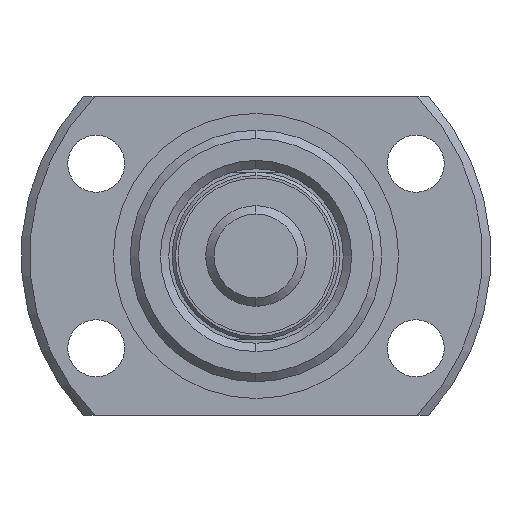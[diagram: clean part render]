
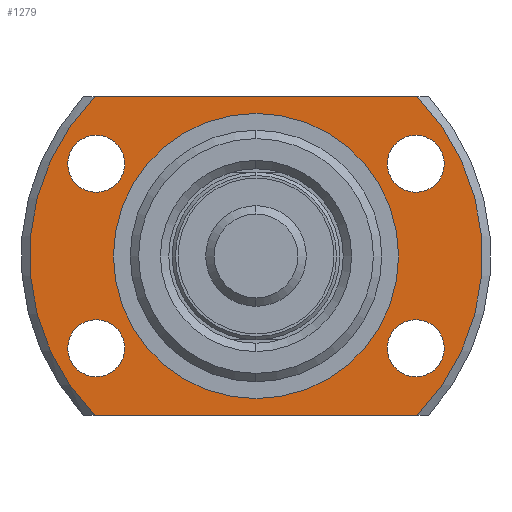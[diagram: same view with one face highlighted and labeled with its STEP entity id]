
A CAD part, left-side view. The second image highlights one B-rep face of the part: STEP entity #1279.
In plain terms, the highlighted planar face has unit normal (-1, 0, 0).
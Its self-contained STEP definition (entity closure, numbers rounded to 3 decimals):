
#17 = EDGE_CURVE ( 'NONE', #794, #765, #735, .T. ) ;
#48 = DIRECTION ( 'NONE',  ( 1., 0., 0. ) ) ;
#56 = DIRECTION ( 'NONE',  ( 0., 0., -1. ) ) ;
#85 = CARTESIAN_POINT ( 'NONE',  ( -4., 0., 0. ) ) ;
#91 = DIRECTION ( 'NONE',  ( 0., -1., 0. ) ) ;
#102 = CIRCLE ( 'NONE', #2213, 1.7 ) ;
#106 = CIRCLE ( 'NONE', #2214, 1.7 ) ;
#164 = EDGE_CURVE ( 'NONE', #684, #813, #718, .T. ) ;
#165 = EDGE_CURVE ( 'NONE', #761, #691, #715, .T. ) ;
#183 = FACE_BOUND ( 'NONE', #1414, .T. ) ;
#185 = FACE_BOUND ( 'NONE', #1409, .T. ) ;
#186 = FACE_BOUND ( 'NONE', #1404, .T. ) ;
#187 = FACE_OUTER_BOUND ( 'NONE', #1410, .T. ) ;
#196 = FACE_BOUND ( 'NONE', #1413, .T. ) ;
#198 = FACE_BOUND ( 'NONE', #1408, .T. ) ;
#240 = CIRCLE ( 'NONE', #2405, 1.7 ) ;
#242 = CIRCLE ( 'NONE', #2406, 13.5 ) ;
#250 = CIRCLE ( 'NONE', #2401, 1.7 ) ;
#251 = LINE ( 'NONE', #396, #296 ) ;
#255 = LINE ( 'NONE', #389, #294 ) ;
#256 = CIRCLE ( 'NONE', #2402, 1.7 ) ;
#268 = CIRCLE ( 'NONE', #2400, 8.5 ) ;
#294 = VECTOR ( 'NONE', #91, 1000. ) ;
#296 = VECTOR ( 'NONE', #394, 1000. ) ;
#311 = CIRCLE ( 'NONE', #2336, 1.7 ) ;
#319 = CIRCLE ( 'NONE', #2338, 1.7 ) ;
#389 = CARTESIAN_POINT ( 'NONE',  ( -4., 13.5, -9.5 ) ) ;
#390 = DIRECTION ( 'NONE',  ( 0., 0., 1. ) ) ;
#392 = DIRECTION ( 'NONE',  ( -1., 0., 0. ) ) ;
#393 = CARTESIAN_POINT ( 'NONE',  ( -4., -9.526, -5.5 ) ) ;
#394 = DIRECTION ( 'NONE',  ( 0., 1., 0. ) ) ;
#396 = CARTESIAN_POINT ( 'NONE',  ( -4., 13.5, 9.5 ) ) ;
#400 = DIRECTION ( 'NONE',  ( 0., 0., 1. ) ) ;
#401 = DIRECTION ( 'NONE',  ( -1., 0., 0. ) ) ;
#402 = CARTESIAN_POINT ( 'NONE',  ( -4., 9.526, -5.5 ) ) ;
#424 = DIRECTION ( 'NONE',  ( 0., 0., 1. ) ) ;
#425 = DIRECTION ( 'NONE',  ( -1., 0., 0. ) ) ;
#426 = CARTESIAN_POINT ( 'NONE',  ( -4., -9.526, 5.5 ) ) ;
#428 = DIRECTION ( 'NONE',  ( 0., 0., -1. ) ) ;
#429 = DIRECTION ( 'NONE',  ( 1., 0., 0. ) ) ;
#430 = CARTESIAN_POINT ( 'NONE',  ( -4., 0., 0. ) ) ;
#434 = DIRECTION ( 'NONE',  ( 0., 0., -1. ) ) ;
#438 = DIRECTION ( 'NONE',  ( 1., 0., 0. ) ) ;
#439 = CARTESIAN_POINT ( 'NONE',  ( -4., 0., 0. ) ) ;
#498 = CARTESIAN_POINT ( 'NONE',  ( -4., 9.526, 3.8 ) ) ;
#512 = CARTESIAN_POINT ( 'NONE',  ( -4., 9.526, -3.8 ) ) ;
#522 = CARTESIAN_POINT ( 'NONE',  ( -4., -9.526, -3.8 ) ) ;
#525 = CARTESIAN_POINT ( 'NONE',  ( -4., -9.526, -7.2 ) ) ;
#527 = CARTESIAN_POINT ( 'NONE',  ( -4., 0., 8.5 ) ) ;
#533 = CARTESIAN_POINT ( 'NONE',  ( -4., 9.526, -7.2 ) ) ;
#534 = CARTESIAN_POINT ( 'NONE',  ( -4., -9.526, 7.2 ) ) ;
#536 = CARTESIAN_POINT ( 'NONE',  ( -4., 0., -8.5 ) ) ;
#539 = CARTESIAN_POINT ( 'NONE',  ( -4., -9.592, 9.5 ) ) ;
#550 = CARTESIAN_POINT ( 'NONE',  ( -4., 9.592, -9.5 ) ) ;
#555 = CARTESIAN_POINT ( 'NONE',  ( -4., -9.526, 3.8 ) ) ;
#558 = CARTESIAN_POINT ( 'NONE',  ( -4., -9.592, -9.5 ) ) ;
#561 = CARTESIAN_POINT ( 'NONE',  ( -4., 9.592, 9.5 ) ) ;
#571 = CARTESIAN_POINT ( 'NONE',  ( -4., 9.526, 7.2 ) ) ;
#586 = DIRECTION ( 'NONE',  ( 0., 0., -1. ) ) ;
#587 = DIRECTION ( 'NONE',  ( 1., 0., 0. ) ) ;
#588 = CARTESIAN_POINT ( 'NONE',  ( -4., 0., 0. ) ) ;
#591 = DIRECTION ( 'NONE',  ( 0., 0., 1. ) ) ;
#592 = DIRECTION ( 'NONE',  ( -1., 0., 0. ) ) ;
#593 = CARTESIAN_POINT ( 'NONE',  ( -4., 9.526, 5.5 ) ) ;
#684 = VERTEX_POINT ( 'NONE', #571 ) ;
#689 = VERTEX_POINT ( 'NONE', #561 ) ;
#691 = VERTEX_POINT ( 'NONE', #558 ) ;
#695 = VERTEX_POINT ( 'NONE', #555 ) ;
#715 = CIRCLE ( 'NONE', #2282, 13.5 ) ;
#718 = CIRCLE ( 'NONE', #2286, 1.7 ) ;
#735 = CIRCLE ( 'NONE', #2316, 8.5 ) ;
#756 = VERTEX_POINT ( 'NONE', #550 ) ;
#761 = VERTEX_POINT ( 'NONE', #539 ) ;
#765 = VERTEX_POINT ( 'NONE', #536 ) ;
#768 = VERTEX_POINT ( 'NONE', #533 ) ;
#782 = VERTEX_POINT ( 'NONE', #534 ) ;
#783 = VERTEX_POINT ( 'NONE', #525 ) ;
#794 = VERTEX_POINT ( 'NONE', #527 ) ;
#799 = VERTEX_POINT ( 'NONE', #522 ) ;
#804 = VERTEX_POINT ( 'NONE', #512 ) ;
#813 = VERTEX_POINT ( 'NONE', #498 ) ;
#868 = ORIENTED_EDGE ( 'NONE', *, *, #1118, .T. ) ;
#869 = ORIENTED_EDGE ( 'NONE', *, *, #1105, .F. ) ;
#870 = ORIENTED_EDGE ( 'NONE', *, *, #1117, .T. ) ;
#871 = ORIENTED_EDGE ( 'NONE', *, *, #165, .F. ) ;
#872 = ORIENTED_EDGE ( 'NONE', *, *, #17, .T. ) ;
#873 = ORIENTED_EDGE ( 'NONE', *, *, #1116, .T. ) ;
#874 = ORIENTED_EDGE ( 'NONE', *, *, #1113, .F. ) ;
#875 = ORIENTED_EDGE ( 'NONE', *, *, #2249, .F. ) ;
#876 = ORIENTED_EDGE ( 'NONE', *, *, #164, .F. ) ;
#877 = ORIENTED_EDGE ( 'NONE', *, *, #2251, .F. ) ;
#878 = ORIENTED_EDGE ( 'NONE', *, *, #1106, .F. ) ;
#879 = ORIENTED_EDGE ( 'NONE', *, *, #1224, .F. ) ;
#880 = ORIENTED_EDGE ( 'NONE', *, *, #1115, .F. ) ;
#881 = ORIENTED_EDGE ( 'NONE', *, *, #1221, .F. ) ;
#983 = DIRECTION ( 'NONE',  ( 0., 0., 1. ) ) ;
#984 = DIRECTION ( 'NONE',  ( -1., 0., 0. ) ) ;
#985 = CARTESIAN_POINT ( 'NONE',  ( -4., 9.526, 5.5 ) ) ;
#988 = DIRECTION ( 'NONE',  ( 0., 0., 1. ) ) ;
#990 = DIRECTION ( 'NONE',  ( -1., 0., 0. ) ) ;
#991 = CARTESIAN_POINT ( 'NONE',  ( -4., 9.526, -5.5 ) ) ;
#1105 = EDGE_CURVE ( 'NONE', #756, #689, #242, .T. ) ;
#1106 = EDGE_CURVE ( 'NONE', #782, #695, #240, .T. ) ;
#1113 = EDGE_CURVE ( 'NONE', #804, #768, #256, .T. ) ;
#1115 = EDGE_CURVE ( 'NONE', #799, #783, #250, .T. ) ;
#1116 = EDGE_CURVE ( 'NONE', #765, #794, #268, .T. ) ;
#1117 = EDGE_CURVE ( 'NONE', #761, #689, #251, .T. ) ;
#1118 = EDGE_CURVE ( 'NONE', #756, #691, #255, .T. ) ;
#1221 = EDGE_CURVE ( 'NONE', #783, #799, #319, .T. ) ;
#1224 = EDGE_CURVE ( 'NONE', #695, #782, #311, .T. ) ;
#1279 = ADVANCED_FACE ( 'NONE', ( #185, #186, #198, #196, #183, #187 ), #1789, .T. ) ;
#1404 = EDGE_LOOP ( 'NONE', ( #879, #878 ) ) ;
#1408 = EDGE_LOOP ( 'NONE', ( #877, #876 ) ) ;
#1409 = EDGE_LOOP ( 'NONE', ( #881, #880 ) ) ;
#1410 = EDGE_LOOP ( 'NONE', ( #871, #870, #869, #868 ) ) ;
#1413 = EDGE_LOOP ( 'NONE', ( #875, #874 ) ) ;
#1414 = EDGE_LOOP ( 'NONE', ( #873, #872 ) ) ;
#1786 = DIRECTION ( 'NONE',  ( 0., 0., 1. ) ) ;
#1787 = CARTESIAN_POINT ( 'NONE',  ( -4., 13.5, 0. ) ) ;
#1789 = PLANE ( 'NONE',  #2263 ) ;
#1795 = DIRECTION ( 'NONE',  ( -1., 0., 0. ) ) ;
#2034 = DIRECTION ( 'NONE',  ( 0., 0., 1. ) ) ;
#2036 = DIRECTION ( 'NONE',  ( -1., 0., 0. ) ) ;
#2037 = CARTESIAN_POINT ( 'NONE',  ( -4., -9.526, 5.5 ) ) ;
#2050 = DIRECTION ( 'NONE',  ( 0., 0., 1. ) ) ;
#2051 = DIRECTION ( 'NONE',  ( -1., 0., 0. ) ) ;
#2052 = CARTESIAN_POINT ( 'NONE',  ( -4., -9.526, -5.5 ) ) ;
#2213 = AXIS2_PLACEMENT_3D ( 'NONE', #985, #984, #983 ) ;
#2214 = AXIS2_PLACEMENT_3D ( 'NONE', #991, #990, #988 ) ;
#2249 = EDGE_CURVE ( 'NONE', #768, #804, #106, .T. ) ;
#2251 = EDGE_CURVE ( 'NONE', #813, #684, #102, .T. ) ;
#2263 = AXIS2_PLACEMENT_3D ( 'NONE', #1787, #1795, #1786 ) ;
#2282 = AXIS2_PLACEMENT_3D ( 'NONE', #588, #587, #586 ) ;
#2286 = AXIS2_PLACEMENT_3D ( 'NONE', #593, #592, #591 ) ;
#2316 = AXIS2_PLACEMENT_3D ( 'NONE', #439, #438, #434 ) ;
#2336 = AXIS2_PLACEMENT_3D ( 'NONE', #2037, #2036, #2034 ) ;
#2338 = AXIS2_PLACEMENT_3D ( 'NONE', #2052, #2051, #2050 ) ;
#2400 = AXIS2_PLACEMENT_3D ( 'NONE', #85, #48, #56 ) ;
#2401 = AXIS2_PLACEMENT_3D ( 'NONE', #393, #392, #390 ) ;
#2402 = AXIS2_PLACEMENT_3D ( 'NONE', #402, #401, #400 ) ;
#2405 = AXIS2_PLACEMENT_3D ( 'NONE', #426, #425, #424 ) ;
#2406 = AXIS2_PLACEMENT_3D ( 'NONE', #430, #429, #428 ) ;
